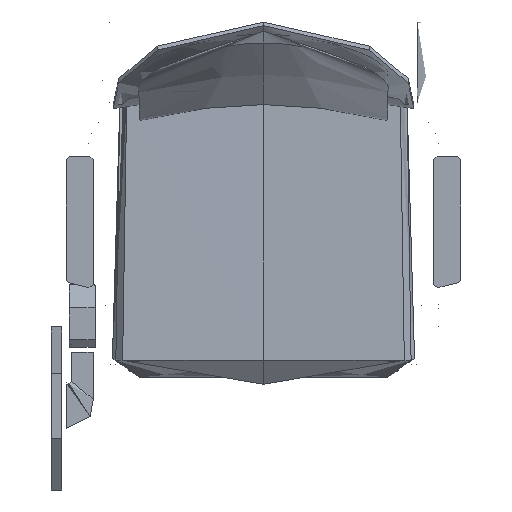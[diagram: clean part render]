
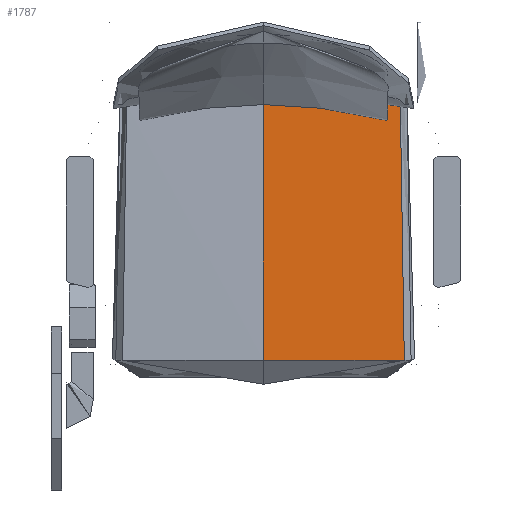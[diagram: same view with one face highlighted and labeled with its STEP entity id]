
A CAD part, top view. The second image highlights one B-rep face of the part: STEP entity #1787.
In plain terms, the highlighted free-form (B-spline) face has degree [3, 3] with [6, 4] control points.
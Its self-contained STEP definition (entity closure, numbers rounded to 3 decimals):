
#114=B_SPLINE_SURFACE_WITH_KNOTS('',3,3,((#62976,#62977,#62978,#62979),
(#62980,#62981,#62982,#62983),(#62984,#62985,#62986,#62987),(#62988,#62989,
#62990,#62991),(#62992,#62993,#62994,#62995),(#62996,#62997,#62998,#62999)),
 .UNSPECIFIED.,.F.,.F.,.F.,(4,1,1,4),(4,4),(47.607,192.091,
336.575,469.281),(0.,208.2),.UNSPECIFIED.);
#1787=ADVANCED_FACE('',(#2958),#114,.T.);
#2958=FACE_OUTER_BOUND('',#4581,.T.);
#4581=EDGE_LOOP('',(#11207,#11208,#11209,#11210,#11211));
#11207=ORIENTED_EDGE('',*,*,#14698,.T.);
#11208=ORIENTED_EDGE('',*,*,#14690,.F.);
#11209=ORIENTED_EDGE('',*,*,#14658,.T.);
#11210=ORIENTED_EDGE('',*,*,#14685,.F.);
#11211=ORIENTED_EDGE('',*,*,#14691,.F.);
#14658=EDGE_CURVE('',#20346,#20347,#17941,.T.);
#14685=EDGE_CURVE('',#20363,#20347,#17957,.T.);
#14690=EDGE_CURVE('',#20346,#20365,#17962,.T.);
#14691=EDGE_CURVE('',#20367,#20363,#17963,.T.);
#14698=EDGE_CURVE('',#20367,#20365,#18188,.T.);
#17941=B_SPLINE_CURVE_WITH_KNOTS('',3,(#64123,#64124,#64125,#64126,#64127,
#64128),.UNSPECIFIED.,.F.,.F.,(4,1,1,4),(-469.281,-336.575,
-192.091,-47.607),.UNSPECIFIED.);
#17957=B_SPLINE_CURVE_WITH_KNOTS('',3,(#64515,#64516,#64517,#64518),
 .UNSPECIFIED.,.F.,.F.,(4,4),(0.,208.2),.UNSPECIFIED.);
#17962=B_SPLINE_CURVE_WITH_KNOTS('',3,(#64587,#64588,#64589,#64590),
 .UNSPECIFIED.,.F.,.F.,(4,4),(0.,169.177),.UNSPECIFIED.);
#17963=B_SPLINE_CURVE_WITH_KNOTS('',3,(#64591,#64592,#64593,#64594,#64595),
 .UNSPECIFIED.,.F.,.F.,(4,1,4),(235.672,614.063,616.504),
 .UNSPECIFIED.);
#18188=(
BOUNDED_CURVE()
B_SPLINE_CURVE(3,(#64674,#64675,#64676,#64677,#64678,#64679,#64680,#64681,
#64682,#64683,#64684,#64685,#64686,#64687,#64688,#64689,#64690,#64691,#64692,
#64693),.UNSPECIFIED.,.F.,.F.)
B_SPLINE_CURVE_WITH_KNOTS((4,3,3,1,1,1,1,1,1,1,3,4),(-0.392,
-0.39,6.301,10.816,15.904,21.689,
28.102,34.77,41.018,46.433,51.07,
56.446),.UNSPECIFIED.)
CURVE()
GEOMETRIC_REPRESENTATION_ITEM()
RATIONAL_B_SPLINE_CURVE((1.,1.,1.,1.,1.,1.,1.,1.,1.,1.,1.,
1.,1.,1.,1.,1.,1.,1.,1.,1.))
REPRESENTATION_ITEM('')
);
#20346=VERTEX_POINT('',#64090);
#20347=VERTEX_POINT('',#64091);
#20363=VERTEX_POINT('',#64107);
#20365=VERTEX_POINT('',#64109);
#20367=VERTEX_POINT('',#64111);
#62976=CARTESIAN_POINT('',(207.61,-200.8,469.081));
#62977=CARTESIAN_POINT('',(138.406,-200.8,467.081));
#62978=CARTESIAN_POINT('',(69.203,-200.8,466.081));
#62979=CARTESIAN_POINT('',(0.,-200.8,466.081));
#62980=CARTESIAN_POINT('',(206.89,-154.314,468.31));
#62981=CARTESIAN_POINT('',(137.927,-164.428,466.478));
#62982=CARTESIAN_POINT('',(68.963,-169.485,465.562));
#62983=CARTESIAN_POINT('',(0.,-169.485,465.562));
#62984=CARTESIAN_POINT('',(205.45,-61.344,466.768));
#62985=CARTESIAN_POINT('',(136.967,-58.131,457.01));
#62986=CARTESIAN_POINT('',(68.483,-56.525,452.131));
#62987=CARTESIAN_POINT('',(0.,-56.525,452.131));
#62988=CARTESIAN_POINT('',(203.349,74.323,464.518));
#62989=CARTESIAN_POINT('',(135.566,87.116,455.076));
#62990=CARTESIAN_POINT('',(67.783,93.513,450.355));
#62991=CARTESIAN_POINT('',(0.,93.513,450.355));
#62992=CARTESIAN_POINT('',(201.968,163.504,463.038));
#62993=CARTESIAN_POINT('',(134.645,173.48,457.765));
#62994=CARTESIAN_POINT('',(67.323,178.468,455.129));
#62995=CARTESIAN_POINT('',(0.,178.468,455.129));
#62996=CARTESIAN_POINT('',(201.307,206.2,462.33));
#62997=CARTESIAN_POINT('',(134.204,212.878,459.041));
#62998=CARTESIAN_POINT('',(67.102,216.217,457.396));
#62999=CARTESIAN_POINT('',(0.,216.217,457.396));
#64090=CARTESIAN_POINT('',(0.,216.217,457.396));
#64091=CARTESIAN_POINT('',(0.,-200.8,466.081));
#64107=CARTESIAN_POINT('',(207.61,-200.8,469.081));
#64109=CARTESIAN_POINT('',(166.693,209.35,460.779));
#64111=CARTESIAN_POINT('',(201.765,176.772,462.819));
#64123=CARTESIAN_POINT('',(0.,216.217,457.396));
#64124=CARTESIAN_POINT('',(0.,178.468,455.129));
#64125=CARTESIAN_POINT('',(0.,93.513,450.355));
#64126=CARTESIAN_POINT('',(0.,-56.525,452.131));
#64127=CARTESIAN_POINT('',(0.,-169.485,465.562));
#64128=CARTESIAN_POINT('',(0.,-200.8,466.081));
#64515=CARTESIAN_POINT('',(207.61,-200.8,469.081));
#64516=CARTESIAN_POINT('',(138.406,-200.8,467.081));
#64517=CARTESIAN_POINT('',(69.203,-200.8,466.081));
#64518=CARTESIAN_POINT('',(0.,-200.8,466.081));
#64587=CARTESIAN_POINT('',(0.,216.217,457.396));
#64588=CARTESIAN_POINT('',(55.652,216.219,457.396));
#64589=CARTESIAN_POINT('',(111.239,213.917,458.528));
#64590=CARTESIAN_POINT('',(166.693,209.35,460.779));
#64591=CARTESIAN_POINT('',(201.765,176.772,462.819));
#64592=CARTESIAN_POINT('',(203.697,51.693,464.897));
#64593=CARTESIAN_POINT('',(205.651,-74.287,466.969));
#64594=CARTESIAN_POINT('',(207.595,-199.785,469.083));
#64595=CARTESIAN_POINT('',(207.61,-200.8,469.081));
#64674=CARTESIAN_POINT('',(201.765,176.772,462.819));
#64675=CARTESIAN_POINT('',(201.764,176.772,462.819));
#64676=CARTESIAN_POINT('',(201.763,176.772,462.819));
#64677=CARTESIAN_POINT('',(201.762,176.772,462.819));
#64678=CARTESIAN_POINT('',(199.541,176.811,462.669));
#64679=CARTESIAN_POINT('',(197.319,176.863,462.52));
#64680=CARTESIAN_POINT('',(195.1,176.969,462.373));
#64681=CARTESIAN_POINT('',(193.602,177.041,462.274));
#64682=CARTESIAN_POINT('',(190.422,177.258,462.064));
#64683=CARTESIAN_POINT('',(185.365,178.026,461.733));
#64684=CARTESIAN_POINT('',(179.891,179.81,461.385));
#64685=CARTESIAN_POINT('',(174.545,183.167,461.064));
#64686=CARTESIAN_POINT('',(170.339,188.106,460.842));
#64687=CARTESIAN_POINT('',(167.892,193.742,460.742));
#64688=CARTESIAN_POINT('',(166.881,199.09,460.725));
#64689=CARTESIAN_POINT('',(166.675,202.435,460.736));
#64690=CARTESIAN_POINT('',(166.633,203.979,460.744));
#64691=CARTESIAN_POINT('',(166.59,205.769,460.753));
#64692=CARTESIAN_POINT('',(166.606,207.562,460.765));
#64693=CARTESIAN_POINT('',(166.693,209.35,460.779));
